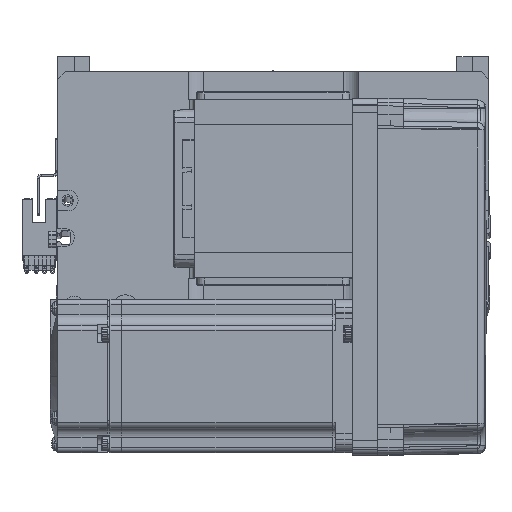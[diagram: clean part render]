
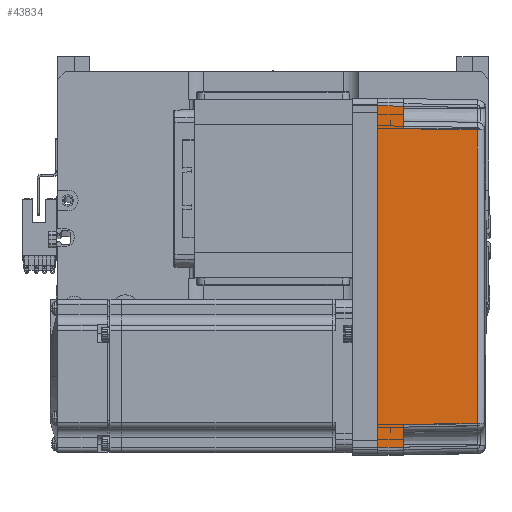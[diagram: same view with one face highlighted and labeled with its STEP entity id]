
A CAD part, top view. The second image highlights one B-rep face of the part: STEP entity #43834.
In plain terms, the highlighted planar face has unit normal (0.018, 0, 1) as drawn and (0, 1, 0.017) by its records, which use the part's own axes.
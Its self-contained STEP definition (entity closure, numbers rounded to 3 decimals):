
#588 = VECTOR ( 'NONE', #54854, 1000. ) ;
#811 = DIRECTION ( 'NONE',  ( 0.017, 0.017, -1. ) ) ;
#2442 = CARTESIAN_POINT ( 'NONE',  ( 67.001, 36.001, -0.052 ) ) ;
#3013 = EDGE_CURVE ( 'NONE', #31447, #42900, #29701, .T. ) ;
#3016 = DIRECTION ( 'NONE',  ( 0.017, -0.017, 1. ) ) ;
#4000 = VECTOR ( 'NONE', #12069, 1000. ) ;
#4787 = VECTOR ( 'NONE', #811, 1000. ) ;
#8342 = CARTESIAN_POINT ( 'NONE',  ( 70., 35.825, 10. ) ) ;
#9290 = CARTESIAN_POINT ( 'NONE',  ( -57.495, 35.32, 38.985 ) ) ;
#10690 = EDGE_CURVE ( 'NONE', #45771, #32373, #40621, .T. ) ;
#12069 = DIRECTION ( 'NONE',  ( -0.017, -0.017, 1. ) ) ;
#13210 = LINE ( 'NONE', #45779, #38203 ) ;
#13837 = LINE ( 'NONE', #64704, #588 ) ;
#14614 = VECTOR ( 'NONE', #3016, 1000. ) ;
#15345 = CARTESIAN_POINT ( 'NONE',  ( 67., 36., 0. ) ) ;
#16554 = ORIENTED_EDGE ( 'NONE', *, *, #45305, .T. ) ;
#18710 = EDGE_CURVE ( 'NONE', #51488, #31143, #39955, .T. ) ;
#23672 = VERTEX_POINT ( 'NONE', #24897 ) ;
#23940 = CARTESIAN_POINT ( 'NONE',  ( 57.495, 35.32, 38.985 ) ) ;
#23987 = ORIENTED_EDGE ( 'NONE', *, *, #54555, .F. ) ;
#24272 = CARTESIAN_POINT ( 'NONE',  ( 19.165, 35.316, 39.181 ) ) ;
#24897 = CARTESIAN_POINT ( 'NONE',  ( -67., 36., 0. ) ) ;
#26076 = PLANE ( 'NONE',  #27269 ) ;
#26501 = CARTESIAN_POINT ( 'NONE',  ( 57.495, 35.32, 38.985 ) ) ;
#27269 = AXIS2_PLACEMENT_3D ( 'NONE', #41079, #35468, #40877 ) ;
#27841 = LINE ( 'NONE', #43080, #14614 ) ;
#28926 = LINE ( 'NONE', #8342, #34479 ) ;
#29701 = LINE ( 'NONE', #26501, #4787 ) ;
#30282 = ORIENTED_EDGE ( 'NONE', *, *, #18710, .T. ) ;
#31143 = VERTEX_POINT ( 'NONE', #60415 ) ;
#31447 = VERTEX_POINT ( 'NONE', #23940 ) ;
#32373 = VERTEX_POINT ( 'NONE', #53073 ) ;
#34479 = VECTOR ( 'NONE', #52981, 1000. ) ;
#34881 = B_SPLINE_CURVE_WITH_KNOTS ( 'NONE', 3,
 ( #9290, #44097, #24272, #54980 ),
 .UNSPECIFIED., .F., .F.,
 ( 4, 4 ),
 ( 0., 1. ),
 .UNSPECIFIED. ) ;
#35370 = ORIENTED_EDGE ( 'NONE', *, *, #55599, .T. ) ;
#35468 = DIRECTION ( 'NONE',  ( 0., 1., 0.017 ) ) ;
#36645 = CARTESIAN_POINT ( 'NONE',  ( 58., 35.825, 10. ) ) ;
#37151 = EDGE_LOOP ( 'NONE', ( #35370, #30282, #16554, #47845, #64317, #39472, #42478, #23987 ) ) ;
#38203 = VECTOR ( 'NONE', #55557, 1000. ) ;
#38205 = CARTESIAN_POINT ( 'NONE',  ( -66.826, 35.825, 10. ) ) ;
#39472 = ORIENTED_EDGE ( 'NONE', *, *, #59250, .T. ) ;
#39955 = LINE ( 'NONE', #61488, #63350 ) ;
#40621 = LINE ( 'NONE', #2442, #4000 ) ;
#40877 = DIRECTION ( 'NONE',  ( 0., -0.017, 1. ) ) ;
#41079 = CARTESIAN_POINT ( 'NONE',  ( 70., 36., 0. ) ) ;
#41242 = VERTEX_POINT ( 'NONE', #42737 ) ;
#42478 = ORIENTED_EDGE ( 'NONE', *, *, #10690, .F. ) ;
#42737 = CARTESIAN_POINT ( 'NONE',  ( -57.495, 35.32, 38.985 ) ) ;
#42900 = VERTEX_POINT ( 'NONE', #36645 ) ;
#43080 = CARTESIAN_POINT ( 'NONE',  ( -67., 36., 0. ) ) ;
#43276 = FACE_OUTER_BOUND ( 'NONE', #37151, .T. ) ;
#43834 = ADVANCED_FACE ( 'NONE', ( #43276 ), #26076, .T. ) ;
#44097 = CARTESIAN_POINT ( 'NONE',  ( -19.165, 35.316, 39.181 ) ) ;
#45305 = EDGE_CURVE ( 'NONE', #31143, #41242, #13837, .T. ) ;
#45771 = VERTEX_POINT ( 'NONE', #15345 ) ;
#45779 = CARTESIAN_POINT ( 'NONE',  ( 0., 36., 0. ) ) ;
#47845 = ORIENTED_EDGE ( 'NONE', *, *, #60317, .T. ) ;
#51488 = VERTEX_POINT ( 'NONE', #38205 ) ;
#52981 = DIRECTION ( 'NONE',  ( 1., 0., 0. ) ) ;
#53073 = CARTESIAN_POINT ( 'NONE',  ( 66.826, 35.825, 10. ) ) ;
#54555 = EDGE_CURVE ( 'NONE', #23672, #45771, #13210, .T. ) ;
#54854 = DIRECTION ( 'NONE',  ( 0.017, -0.017, 1. ) ) ;
#54980 = CARTESIAN_POINT ( 'NONE',  ( 57.495, 35.32, 38.985 ) ) ;
#55557 = DIRECTION ( 'NONE',  ( 1., 0., 0. ) ) ;
#55599 = EDGE_CURVE ( 'NONE', #23672, #51488, #27841, .T. ) ;
#56692 = DIRECTION ( 'NONE',  ( 1., 0., 0. ) ) ;
#59250 = EDGE_CURVE ( 'NONE', #42900, #32373, #28926, .T. ) ;
#60317 = EDGE_CURVE ( 'NONE', #41242, #31447, #34881, .T. ) ;
#60415 = CARTESIAN_POINT ( 'NONE',  ( -58., 35.825, 10. ) ) ;
#61488 = CARTESIAN_POINT ( 'NONE',  ( 70., 35.825, 10. ) ) ;
#63350 = VECTOR ( 'NONE', #56692, 1000. ) ;
#64317 = ORIENTED_EDGE ( 'NONE', *, *, #3013, .T. ) ;
#64704 = CARTESIAN_POINT ( 'NONE',  ( -58., 35.825, 10. ) ) ;
